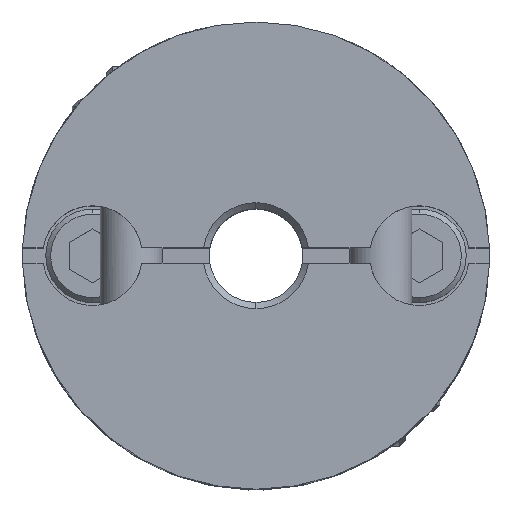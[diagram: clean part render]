
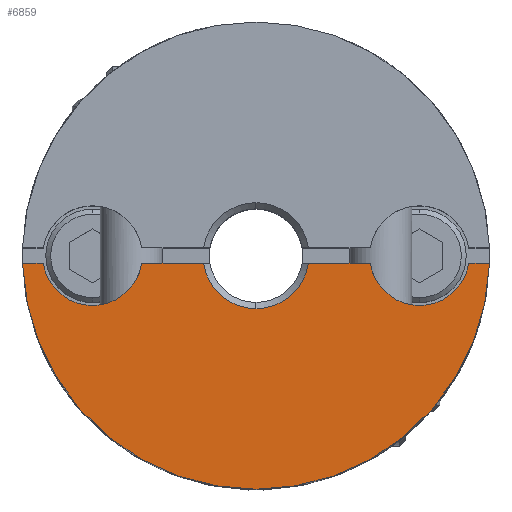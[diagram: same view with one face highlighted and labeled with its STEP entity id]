
A CAD part, top view. The second image highlights one B-rep face of the part: STEP entity #6859.
In plain terms, the highlighted planar face has unit normal (0, 0, 1).
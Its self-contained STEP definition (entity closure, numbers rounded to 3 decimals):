
#622=CARTESIAN_POINT('',(0.,-7.5,8.1));
#623=VERTEX_POINT('',#622);
#630=CARTESIAN_POINT('',(-7.496,-0.25,8.1));
#631=VERTEX_POINT('',#630);
#632=CARTESIAN_POINT('',(0.,0.,8.1));
#633=DIRECTION('',(0.0,0.0,-1.0));
#634=DIRECTION('',(0.0,1.0,0.0));
#635=AXIS2_PLACEMENT_3D('',#632,#633,#634);
#636=CIRCLE('',#635,7.5);
#637=EDGE_CURVE('',#623,#631,#636,.T.);
#983=CARTESIAN_POINT('',(0.,-1.7,8.1));
#984=VERTEX_POINT('',#983);
#1000=CARTESIAN_POINT('',(-1.682,-0.25,8.1));
#1001=VERTEX_POINT('',#1000);
#1015=CARTESIAN_POINT('',(0.,0.,8.1));
#1016=DIRECTION('',(0.0,0.0,1.0));
#1017=DIRECTION('',(0.0,-1.0,0.0));
#1018=AXIS2_PLACEMENT_3D('',#1015,#1016,#1017);
#1019=CIRCLE('',#1018,1.7);
#1020=EDGE_CURVE('',#1001,#984,#1019,.T.);
#1317=CARTESIAN_POINT('',(-5.25,-1.6,8.1));
#1318=VERTEX_POINT('',#1317);
#1334=CARTESIAN_POINT('',(-6.83,-0.25,8.1));
#1335=VERTEX_POINT('',#1334);
#1342=CARTESIAN_POINT('',(-5.25,0.,8.1));
#1343=DIRECTION('',(0.0,0.0,-1.0));
#1344=DIRECTION('',(0.0,1.0,0.0));
#1345=AXIS2_PLACEMENT_3D('',#1342,#1343,#1344);
#1346=CIRCLE('',#1345,1.6);
#1347=EDGE_CURVE('',#1318,#1335,#1346,.T.);
#1687=CARTESIAN_POINT('',(5.25,-1.6,8.1));
#1688=VERTEX_POINT('',#1687);
#1762=CARTESIAN_POINT('',(3.67,-0.25,8.1));
#1763=VERTEX_POINT('',#1762);
#1770=CARTESIAN_POINT('',(5.25,0.,8.1));
#1771=DIRECTION('',(0.0,0.0,-1.0));
#1772=DIRECTION('',(0.0,1.0,0.0));
#1773=AXIS2_PLACEMENT_3D('',#1770,#1771,#1772);
#1774=CIRCLE('',#1773,1.6);
#1775=EDGE_CURVE('',#1688,#1763,#1774,.T.);
#5991=CARTESIAN_POINT('',(6.83,-0.25,8.1));
#5992=VERTEX_POINT('',#5991);
#5993=CARTESIAN_POINT('',(5.25,0.,8.1));
#5994=DIRECTION('',(0.0,0.0,-1.0));
#5995=DIRECTION('',(0.0,1.0,0.0));
#5996=AXIS2_PLACEMENT_3D('',#5993,#5994,#5995);
#5997=CIRCLE('',#5996,1.6);
#5998=EDGE_CURVE('',#5992,#1688,#5997,.T.);
#6407=CARTESIAN_POINT('',(-3.67,-0.25,8.1));
#6408=VERTEX_POINT('',#6407);
#6415=CARTESIAN_POINT('',(-1.682,-0.25,8.1));
#6416=DIRECTION('',(-1.0,0.0,0.0));
#6417=VECTOR('',#6416,1.988);
#6418=LINE('',#6415,#6417);
#6419=EDGE_CURVE('',#1001,#6408,#6418,.T.);
#6531=CARTESIAN_POINT('',(-5.25,0.,8.1));
#6532=DIRECTION('',(0.0,0.0,-1.0));
#6533=DIRECTION('',(0.0,1.0,0.0));
#6534=AXIS2_PLACEMENT_3D('',#6531,#6532,#6533);
#6535=CIRCLE('',#6534,1.6);
#6536=EDGE_CURVE('',#6408,#1318,#6535,.T.);
#6649=CARTESIAN_POINT('',(1.682,-0.25,8.1));
#6650=VERTEX_POINT('',#6649);
#6664=CARTESIAN_POINT('',(3.67,-0.25,8.1));
#6665=DIRECTION('',(-1.0,0.0,0.0));
#6666=VECTOR('',#6665,1.988);
#6667=LINE('',#6664,#6666);
#6668=EDGE_CURVE('',#1763,#6650,#6667,.T.);
#6810=CARTESIAN_POINT('',(0.,0.,8.1));
#6811=DIRECTION('',(0.0,0.0,1.0));
#6812=DIRECTION('',(0.0,-1.0,0.0));
#6813=AXIS2_PLACEMENT_3D('',#6810,#6811,#6812);
#6814=CIRCLE('',#6813,1.7);
#6815=EDGE_CURVE('',#984,#6650,#6814,.T.);
#6822=CARTESIAN_POINT('',(0.,0.682,8.1));
#6823=DIRECTION('',(0.0,0.0,1.0));
#6824=DIRECTION('',(0.0,1.0,0.0));
#6825=AXIS2_PLACEMENT_3D('',#6822,#6823,#6824);
#6826=PLANE('',#6825);
#6827=ORIENTED_EDGE('',*,*,#1020,.F.);
#6828=ORIENTED_EDGE('',*,*,#6419,.T.);
#6829=ORIENTED_EDGE('',*,*,#6536,.T.);
#6830=ORIENTED_EDGE('',*,*,#1347,.T.);
#6831=CARTESIAN_POINT('',(-6.83,-0.25,8.1));
#6832=DIRECTION('',(-1.0,0.0,0.0));
#6833=VECTOR('',#6832,0.665);
#6834=LINE('',#6831,#6833);
#6835=EDGE_CURVE('',#1335,#631,#6834,.T.);
#6836=ORIENTED_EDGE('',*,*,#6835,.T.);
#6837=ORIENTED_EDGE('',*,*,#637,.F.);
#6838=CARTESIAN_POINT('',(7.496,-0.25,8.1));
#6839=VERTEX_POINT('',#6838);
#6840=CARTESIAN_POINT('',(0.,0.,8.1));
#6841=DIRECTION('',(0.0,0.0,-1.0));
#6842=DIRECTION('',(0.0,1.0,0.0));
#6843=AXIS2_PLACEMENT_3D('',#6840,#6841,#6842);
#6844=CIRCLE('',#6843,7.5);
#6845=EDGE_CURVE('',#6839,#623,#6844,.T.);
#6846=ORIENTED_EDGE('',*,*,#6845,.F.);
#6847=CARTESIAN_POINT('',(7.496,-0.25,8.1));
#6848=DIRECTION('',(-1.0,0.0,0.0));
#6849=VECTOR('',#6848,0.665);
#6850=LINE('',#6847,#6849);
#6851=EDGE_CURVE('',#6839,#5992,#6850,.T.);
#6852=ORIENTED_EDGE('',*,*,#6851,.T.);
#6853=ORIENTED_EDGE('',*,*,#5998,.T.);
#6854=ORIENTED_EDGE('',*,*,#1775,.T.);
#6855=ORIENTED_EDGE('',*,*,#6668,.T.);
#6856=ORIENTED_EDGE('',*,*,#6815,.F.);
#6857=EDGE_LOOP('',(#6827,#6828,#6829,#6830,#6836,#6837,#6846,#6852,#6853,#6854,#6855,#6856));
#6858=FACE_OUTER_BOUND('',#6857,.T.);
#6859=ADVANCED_FACE('',(#6858),#6826,.T.);
